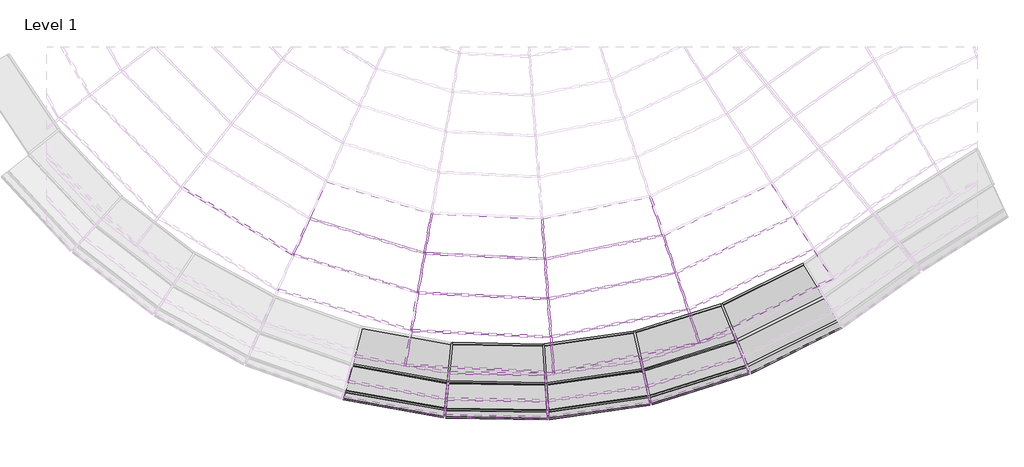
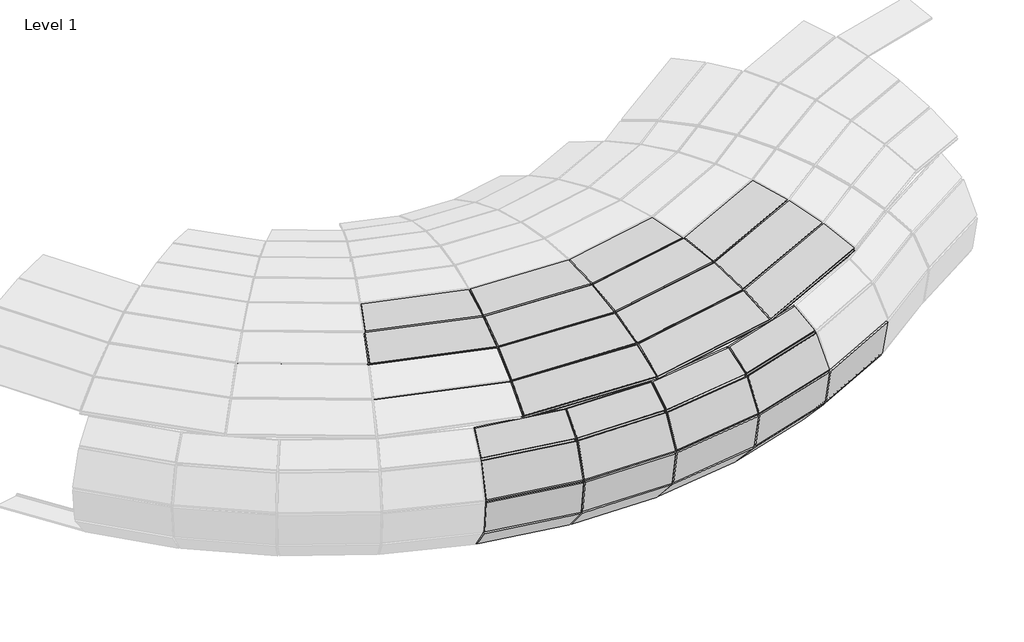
# One storey, part 3 of 23: 70 members, 36 plates.
"""IFC4 building model written with IfcOpenShell, lengths in millimetres."""

from ifc_helpers import new_model, si_unit, origin, place, context, project, spatial, transform, mapped, element, save
from components import member_d6b8231b, member_8c9da58c, member_391bee44, member_01ebdf2a, member_0cd36c09, member_e4cc2466, member_6c4aaba8, member_0ea93e7c, member_12c77cbe, member_af15374c, member_9c203333, member_86c07ba8, member_0e8a41c0, member_f532ae18, member_ff5bcfe9, member_5080b2ef, system_panel_glazed_a6d149b5, system_panel_glazed_185472ef, system_panel_glazed_d90a1b68, system_panel_glazed_7d733e69, system_panel_glazed_020edd5b, system_panel_glazed_973a940c, system_panel_glazed_7e9fb579, system_panel_glazed_aab04364, system_panel_glazed_9094d4f4

model = new_model("IFC4")

# Units and contexts
model_context = context("Model", 3, world=origin())
ifc_project = project(units=[si_unit("LENGTHUNIT", "METRE", prefix="MILLI")], contexts=[model_context])

# Site, building, storey
site = spatial("IfcSite", under=ifc_project)
building = spatial("IfcBuilding", under=site)
storey = spatial("IfcBuildingStorey", under=building, Name="Level 1", Elevation=0.0)

# Members
placement = place(None, origin())
member_shape = member_d6b8231b(model_context)
element("IfcMember", 1, ObjectType="Rectangular Mullion : 1\" Square", at=placement, inside=storey, context=model_context, shape_type="MappedRepresentation", body=[
    mapped(member_shape, transform((-8044.9836654, -9595.6737343, 0.0), x_axis=(0.9753085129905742, 0.2208467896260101, 0.0), y_axis=(0.06190284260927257, -0.2733767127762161, -0.9599131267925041), z_axis=(-0.2119937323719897, 0.9362114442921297, -0.2802976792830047))),
])
element("IfcMember", 2, ObjectType="Rectangular Mullion : 1\" Square", at=placement, inside=storey, context=model_context, shape_type="MappedRepresentation", body=[
    mapped(member_shape, transform((-6752.9729766, -9192.0628654, 0.0), x_axis=(0.927590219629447, 0.3735992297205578, 0.0), y_axis=(0.10471899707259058, -0.2600013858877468, -0.959913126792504), z_axis=(-0.35862280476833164, 0.8904060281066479, -0.2802976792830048))),
])
element("IfcMember", 3, ObjectType="Rectangular Mullion : 1\" Square", at=placement, inside=storey, context=model_context, shape_type="MappedRepresentation", body=[
    mapped(member_shape, transform((-9384.8336131, -9788.0158019, 0.0), x_axis=(0.998048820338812, 0.0624383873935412, 0.0), y_axis=(0.017501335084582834, -0.27975076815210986, -0.9599131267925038), z_axis=(-0.059935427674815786, 0.958040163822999, -0.2802976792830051))),
])
element("IfcMember", 4, ObjectType="Rectangular Mullion : 1\" Square", at=placement, inside=storey, context=model_context, shape_type="MappedRepresentation", body=[
    mapped(member_shape, transform((-10738.2088025, -9764.1631218, 0.0), x_axis=(0.9952287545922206, -0.09756908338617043, 0.0), y_axis=(-0.0273483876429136, -0.27896031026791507, -0.959913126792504), z_axis=(0.09365784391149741, 0.9553331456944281, -0.2802976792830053))),
])
member_2_shape = member_8c9da58c(model_context)
element("IfcMember", 5, ObjectType="Rectangular Mullion : 1\" Square", at=placement, inside=storey, context=model_context, shape_type="MappedRepresentation", body=[
    mapped(member_2_shape, transform((-10795.3026241, -10346.5342074, 170.8694653), x_axis=(0.9952287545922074, -0.09756908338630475, 0.0), y_axis=(-0.07345046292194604, -0.7492128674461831, -0.6582439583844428), z_axis=(0.0642242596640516, 0.6551033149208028, -0.7528046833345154))),
])
element("IfcMember", 6, ObjectType="Rectangular Mullion : 1\" Square", at=placement, inside=storey, context=model_context, shape_type="MappedRepresentation", body=[
    mapped(member_2_shape, transform((-9348.2969764, -10372.0370857, 170.8694653), x_axis=(0.9980488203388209, 0.062438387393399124, 0.0), y_axis=(0.04700391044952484, -0.7513358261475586, -0.6582439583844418), z_axis=(-0.04109969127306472, 0.6569596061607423, -0.7528046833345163))),
])
element("IfcMember", 7, ObjectType="Rectangular Mullion : 1\" Square", at=placement, inside=storey, context=model_context, shape_type="MappedRepresentation", body=[
    mapped(member_2_shape, transform((-9323.2426046, -10772.5196617, 629.7792003), x_axis=(0.9980488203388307, 0.06243838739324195, 0.0), y_axis=(0.061734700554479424, -0.9868007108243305, -0.14971033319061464), z_axis=(-0.009347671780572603, 0.14941822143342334, -0.988729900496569))),
])
element("IfcMember", 8, ObjectType="Rectangular Mullion : 1\" Square", at=placement, inside=storey, context=model_context, shape_type="MappedRepresentation", body=[
    mapped(member_2_shape, transform((-7915.7522861, -10166.3882307, 170.8694653), x_axis=(0.9753085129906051, 0.22084678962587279, 0.0), y_axis=(0.1662544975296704, -0.734216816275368, -0.6582439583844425), z_axis=(-0.14537106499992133, 0.6419909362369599, -0.7528046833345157))),
])
element("IfcMember", 9, ObjectType="Rectangular Mullion : 1\" Square", at=placement, inside=storey, context=model_context, shape_type="MappedRepresentation", body=[
    mapped(member_2_shape, transform((-7827.1340849, -10557.7459054, 629.7792003), x_axis=(0.9753085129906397, 0.22084678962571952, 0.0), y_axis=(0.2183578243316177, -0.9643166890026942, -0.1497103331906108), z_axis=(-0.03306304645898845, 0.14601376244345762, -0.9887299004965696))),
])
element("IfcMember", 10, ObjectType="Rectangular Mullion : 1\" Square", at=placement, inside=storey, context=model_context, shape_type="MappedRepresentation", body=[
    mapped(member_2_shape, transform((-6534.3565148, -9734.8543801, 170.8694653), x_axis=(0.9275902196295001, 0.3735992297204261, 0.0), y_axis=(0.2812472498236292, -0.6982942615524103, -0.6582439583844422), z_axis=(-0.24591943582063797, 0.6105806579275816, -0.752804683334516))),
])
element("IfcMember", 11, ObjectType="Rectangular Mullion : 1\" Square", at=placement, inside=storey, context=model_context, shape_type="MappedRepresentation", body=[
    mapped(member_2_shape, transform((-6384.4440267, -10107.0643492, 629.7792003), x_axis=(0.9275902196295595, 0.3735992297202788, 0.0), y_axis=(0.36938872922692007, -0.9171361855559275, -0.14971033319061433), z_axis=(-0.05593166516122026, 0.1388698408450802, -0.9887299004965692))),
])
member_3_shape = member_391bee44(model_context)
element("IfcMember", 12, ObjectType="Rectangular Mullion : 1\" Square", at=placement, inside=storey, context=model_context, shape_type="MappedRepresentation", body=[
    mapped(member_3_shape, transform((-9317.5442639, -10863.6050094, 1232.5089476), x_axis=(0.9980488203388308, 0.062438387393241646, 0.0), y_axis=(0.05706430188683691, -0.9121465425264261, 0.4058723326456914), z_axis=(0.025342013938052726, -0.40508040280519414, -0.9139297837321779))),
])
element("IfcMember", 13, ObjectType="Rectangular Mullion : 1\" Square", at=placement, inside=storey, context=model_context, shape_type="MappedRepresentation", body=[
    mapped(member_3_shape, transform((-7806.9788518, -10646.755895, 1232.5089476), x_axis=(0.9753085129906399, 0.22084678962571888, 0.0), y_axis=(0.20183845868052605, -0.8913634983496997, 0.4058723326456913), z_axis=(0.08963560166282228, -0.39585074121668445, -0.9139297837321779))),
])
element("IfcMember", 14, ObjectType="Rectangular Mullion : 1\" Square", at=placement, inside=storey, context=model_context, shape_type="MappedRepresentation", body=[
    mapped(member_3_shape, transform((-6350.3480836, -10191.7194041, 1232.5089476), x_axis=(0.9275902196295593, 0.37359922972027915, 0.0), y_axis=(0.34144346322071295, -0.8477523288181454, 0.40587233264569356), z_axis=(0.15163359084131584, -0.37648320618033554, -0.9139297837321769))),
])
member_4_shape = member_01ebdf2a(model_context)
element("IfcMember", 15, ObjectType="Rectangular Mullion : 1\" Square", at=placement, inside=storey, context=model_context, shape_type="MappedRepresentation", body=[
    mapped(member_4_shape, transform((-9332.9927556, -10616.6679959, 1789.6405438), x_axis=(0.9980488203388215, 0.062438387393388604, 0.0), y_axis=(0.037204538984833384, -0.5946973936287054, 0.8030883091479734), z_axis=(0.050143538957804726, -0.8015213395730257, -0.5958600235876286))),
])
element("IfcMember", 16, ObjectType="Rectangular Mullion : 1\" Square", at=placement, inside=storey, context=model_context, shape_type="MappedRepresentation", body=[
    mapped(member_4_shape, transform((-7861.6207145, -10405.4452832, 1789.6405438), x_axis=(0.9753085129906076, 0.22084678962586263, 0.0), y_axis=(0.13159377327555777, -0.5811473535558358, 0.8030883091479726), z_axis=(0.17735947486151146, -0.7832588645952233, -0.5958600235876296))),
])
element("IfcMember", 17, ObjectType="Rectangular Mullion : 1\" Square", at=placement, inside=storey, context=model_context, shape_type="MappedRepresentation", body=[
    mapped(member_4_shape, transform((-6442.7839206, -9962.2152417, 1789.6405438), x_axis=(0.9275902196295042, 0.3735992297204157, 0.0), y_axis=(0.22261284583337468, -0.5527139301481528, 0.8030883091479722), z_axis=(0.3000331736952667, -0.744936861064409, -0.59586002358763))),
])
element("IfcMember", 18, ObjectType="Rectangular Mullion : 1\" Square", at=placement, inside=storey, context=model_context, shape_type="MappedRepresentation", body=[
    mapped(member_2_shape, transform((-10834.4537328, -10745.8851882, 629.7792003), x_axis=(0.9952287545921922, -0.09756908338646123, 0.0), y_axis=(-0.09646947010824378, -0.9840124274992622, -0.1497103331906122), z_axis=(0.014607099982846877, 0.1489960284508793, -0.9887299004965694))),
])
element("IfcMember", 19, ObjectType="Rectangular Mullion : 1\" Square", at=placement, inside=storey, context=model_context, shape_type="MappedRepresentation", body=[
    mapped(member_3_shape, transform((-10843.358221, -10836.7131671, 1232.5089476), x_axis=(0.9952287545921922, -0.09756908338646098, 0.0), y_axis=(-0.08917129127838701, -0.9095692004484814, 0.40587233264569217), z_axis=(-0.039600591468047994, -0.4039358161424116, -0.9139297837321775))),
])
element("IfcMember", 20, ObjectType="Rectangular Mullion : 1\" Square", at=placement, inside=storey, context=model_context, shape_type="MappedRepresentation", body=[
    mapped(member_4_shape, transform((-10819.2177004, -10590.4738936, 1789.6405438), x_axis=(0.9952287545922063, -0.09756908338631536, 0.0), y_axis=(-0.05813751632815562, -0.593017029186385, 0.8030883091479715), z_axis=(-0.0783565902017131, -0.7992565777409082, -0.5958600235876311))),
])
member_5_shape = member_0cd36c09(model_context)
element("IfcMember", 21, ObjectType="Rectangular Mullion : 1\" Square", at=placement, inside=storey, context=model_context, shape_type="MappedRepresentation", body=[
    mapped(member_5_shape, transform((-9274.4739492, -9676.7513146, 2378.3537392), x_axis=(0.9970757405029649, 0.07641968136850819, 0.0), y_axis=(0.02845669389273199, -0.37128497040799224, 0.9280828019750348), z_axis=(0.0709237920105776, -0.9253688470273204, -0.37237388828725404))),
])
element("IfcMember", 22, ObjectType="Rectangular Mullion : 1\" Square", at=placement, inside=storey, context=model_context, shape_type="MappedRepresentation", body=[
    mapped(member_5_shape, transform((-9317.7090929, -9112.6464655, 2605.3528615), x_axis=(0.9970757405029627, 0.07641968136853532, 0.0), y_axis=(0.01980996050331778, -0.25846785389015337, 0.965816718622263), z_axis=(0.07380740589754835, -0.962992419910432, -0.25922589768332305))),
])
element("IfcMember", 23, ObjectType="Rectangular Mullion : 1\" Square", at=placement, inside=storey, context=model_context, shape_type="MappedRepresentation", body=[
    mapped(member_5_shape, transform((-9362.7020875, -8525.6062863, 2763.3769688), x_axis=(0.9970757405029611, 0.07641968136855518, 0.0), y_axis=(0.010881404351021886, -0.14197369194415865, 0.9898106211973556), z_axis=(0.07564101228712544, -0.9869161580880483, -0.14239007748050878))),
])
element("IfcMember", 24, ObjectType="Rectangular Mullion : 1\" Square", at=placement, inside=storey, context=model_context, shape_type="MappedRepresentation", body=[
    mapped(member_5_shape, transform((-7252.7752796, -9266.3710533, 2378.3537392), x_axis=(0.947957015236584, 0.3183983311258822, 0.0), y_axis=(0.11856322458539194, -0.35299443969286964, 0.9280828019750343), z_axis=(0.295500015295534, -0.8797826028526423, -0.37237388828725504))),
])
element("IfcMember", 25, ObjectType="Rectangular Mullion : 1\" Square", at=placement, inside=storey, context=model_context, shape_type="MappedRepresentation", body=[
    mapped(member_5_shape, transform((-7432.9120889, -8730.0555786, 2605.3528615), x_axis=(0.9479570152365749, 0.31839833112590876, 0.0), y_axis=(0.08253709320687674, -0.24573500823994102, 0.9658167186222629), z_axis=(0.30751443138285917, -0.9155527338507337, -0.2592258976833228))),
])
element("IfcMember", 26, ObjectType="Rectangular Mullion : 1\" Square", at=placement, inside=storey, context=model_context, shape_type="MappedRepresentation", body=[
    mapped(member_5_shape, transform((-7620.3728863, -8171.934632, 2763.3769688), x_axis=(0.9479570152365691, 0.3183983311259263, 0.0), y_axis=(0.045336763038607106, -0.13497967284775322, 0.9898106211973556), z_axis=(0.31515404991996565, -0.9382979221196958, -0.14239007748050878))),
])
element("IfcMember", 27, ObjectType="Rectangular Mullion : 1\" Square", at=placement, inside=storey, context=model_context, shape_type="MappedRepresentation", body=[
    mapped(member_5_shape, transform((-13079.0504574, -8462.9166029, 2605.3528615), x_axis=(0.9136605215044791, -0.4064781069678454, 0.0), y_axis=(-0.10536965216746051, -0.2368444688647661, 0.9658167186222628), z_axis=(-0.39258335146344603, -0.8824286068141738, -0.25922589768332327))),
])
element("IfcMember", 28, ObjectType="Rectangular Mullion : 1\" Square", at=placement, inside=storey, context=model_context, shape_type="MappedRepresentation", body=[
    mapped(member_5_shape, transform((-11335.0981505, -9579.2558226, 2378.3537392), x_axis=(0.9854064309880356, -0.17021799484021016, 0.0), y_axis=(-0.06338473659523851, -0.36693962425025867, 0.9280828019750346), z_axis=(-0.15797639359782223, -0.9145387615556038, -0.37237388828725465))),
])
element("IfcMember", 29, ObjectType="Rectangular Mullion : 1\" Square", at=placement, inside=storey, context=model_context, shape_type="MappedRepresentation", body=[
    mapped(member_5_shape, transform((-11238.795741, -9021.7529935, 2605.3528615), x_axis=(0.9854064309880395, -0.1702179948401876, 0.0), y_axis=(-0.044124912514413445, -0.25544286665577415, 0.9658167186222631), z_axis=(-0.16439938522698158, -0.9517220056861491, -0.2592258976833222))),
])
element("IfcMember", 30, ObjectType="Rectangular Mullion : 1\" Square", at=placement, inside=storey, context=model_context, shape_type="MappedRepresentation", body=[
    mapped(member_5_shape, transform((-11138.5778757, -8441.5832589, 2763.3769688), x_axis=(0.9854064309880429, -0.17021799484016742, 0.0), y_axis=(-0.024237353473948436, -0.14031209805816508, 0.9898106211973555), z_axis=(-0.16848357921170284, -0.9753657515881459, -0.14239007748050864))),
])
member_6_shape = member_e4cc2466(model_context)
element("IfcMember", 31, ObjectType="Rectangular Mullion : 1\" Square", at=placement, inside=storey, context=model_context, shape_type="MappedRepresentation", body=[
    mapped(member_6_shape, transform((-9233.6117335, -10209.8956998, 2085.6089632), x_axis=(0.997075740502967, 0.07641968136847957, 0.0), y_axis=(0.036698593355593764, -0.47882006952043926, 0.8771456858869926), z_axis=(0.06703119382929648, -0.8745806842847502, -0.48022437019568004))),
])
element("IfcMember", 32, ObjectType="Rectangular Mullion : 1\" Square", at=placement, inside=storey, context=model_context, shape_type="MappedRepresentation", body=[
    mapped(member_6_shape, transform((-7082.5251415, -9773.2512626, 2085.6089632), x_axis=(0.9479570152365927, 0.3183983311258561, 0.0), y_axis=(0.15290263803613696, -0.4552320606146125, 0.8771456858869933), z_axis=(0.2792817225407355, -0.8314964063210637, -0.48022437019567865))),
])
element("IfcMember", 33, ObjectType="Rectangular Mullion : 1\" Square", at=placement, inside=storey, context=model_context, shape_type="MappedRepresentation", body=[
    mapped(member_6_shape, transform((-11426.1150758, -10106.1605344, 2085.6089632), x_axis=(0.98540643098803, -0.17021799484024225, 0.0), y_axis=(-0.08174282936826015, -0.4732161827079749, 0.8771456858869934), z_axis=(-0.14930597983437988, -0.8643449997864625, -0.48022437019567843))),
])
member_7_shape = member_6c4aaba8(model_context)
element("IfcMember", 34, ObjectType="Rectangular Mullion : 1\" Square", at=placement, inside=storey, context=model_context, shape_type="MappedRepresentation", body=[
    mapped(member_7_shape, transform((-11347.2501894, -9575.5655717, 2378.3537392), x_axis=(0.2631320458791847, 0.8664968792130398, 0.4241988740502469), y_axis=(-0.12325986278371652, -0.40589615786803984, 0.9055690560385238), z_axis=(0.9568534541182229, -0.2905709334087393, 0.0))),
])
element("IfcMember", 35, ObjectType="Rectangular Mullion : 1\" Square", at=placement, inside=storey, context=model_context, shape_type="MappedRepresentation", body=[
    mapped(member_7_shape, transform((-9287.1597581, -9676.1511037, 2378.3537392), x_axis=(0.04279783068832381, 0.9045571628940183, 0.4241988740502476), y_axis=(-0.020047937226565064, -0.4237248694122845, 0.9055690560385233), z_axis=(0.9988825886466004, -0.047260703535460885, 0.0))),
])
element("IfcMember", 36, ObjectType="Rectangular Mullion : 1\" Square", at=placement, inside=storey, context=model_context, shape_type="MappedRepresentation", body=[
    mapped(member_7_shape, transform((-7265.2214514, -9268.8974749, 2378.3537392), x_axis=(-0.18014561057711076, 0.8874699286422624, 0.4241988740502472), y_axis=(0.08438623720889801, -0.41572063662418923, 0.9055690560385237), z_axis=(0.9800135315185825, 0.19893083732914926, 0.0))),
])
member_8_shape = member_0ea93e7c(model_context)
element("IfcMember", 37, ObjectType="Rectangular Mullion : 1\" Square", at=placement, inside=storey, context=model_context, shape_type="MappedRepresentation", body=[
    mapped(member_8_shape, transform((-9375.3878964, -8525.0060754, 2763.3769688), x_axis=(0.04631124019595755, 0.9788151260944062, 0.19943976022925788), y_axis=(-0.009425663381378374, -0.19921690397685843, 0.9799100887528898), z_axis=(0.9988825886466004, -0.04726070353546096, 0.0))),
])
element("IfcMember", 38, ObjectType="Rectangular Mullion : 1\" Square", at=placement, inside=storey, context=model_context, shape_type="MappedRepresentation", body=[
    mapped(member_8_shape, transform((-7632.8190581, -8174.4610537, 2763.3769688), x_axis=(-0.1949343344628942, 0.9603251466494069, 0.19943976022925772), y_axis=(0.03967471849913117, -0.19545366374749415, 0.9799100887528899), z_axis=(0.9800135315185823, 0.19893083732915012, 0.0))),
])
element("IfcMember", 39, ObjectType="Rectangular Mullion : 1\" Square", at=placement, inside=storey, context=model_context, shape_type="MappedRepresentation", body=[
    mapped(member_8_shape, transform((-11150.7299146, -8437.893008, 2763.3769688), x_axis=(0.28473338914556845, 0.9376303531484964, 0.19943976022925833), y_axis=(-0.05795139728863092, -0.190834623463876, 0.9799100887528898), z_axis=(0.9568534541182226, -0.2905709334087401, 0.0))),
])
member_9_shape = member_12c77cbe(model_context)
element("IfcMember", 40, ObjectType="Rectangular Mullion : 1\" Square", at=placement, inside=storey, context=model_context, shape_type="MappedRepresentation", body=[
    mapped(member_9_shape, transform((-13089.9278612, -8456.3612931, 2605.3528615), x_axis=(0.49006573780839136, 0.8131794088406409, 0.31396627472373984), y_axis=(-0.16205875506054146, -0.2689085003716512, 0.9494341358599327), z_axis=(0.8564884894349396, -0.5161661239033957, 0.0))),
])
element("IfcMember", 41, ObjectType="Rectangular Mullion : 1\" Square", at=placement, inside=storey, context=model_context, shape_type="MappedRepresentation", body=[
    mapped(member_9_shape, transform((-11250.9477798, -9018.0627427, 2605.3528615), x_axis=(0.275877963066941, 0.9084693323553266, 0.31396627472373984), y_axis=(-0.09122947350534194, -0.30041971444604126, 0.9494341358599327), z_axis=(0.9568534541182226, -0.2905709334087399, 0.0))),
])
element("IfcMember", 42, ObjectType="Rectangular Mullion : 1\" Square", at=placement, inside=storey, context=model_context, shape_type="MappedRepresentation", body=[
    mapped(member_9_shape, transform((-9330.3949017, -9112.0462545, 2605.3528615), x_axis=(0.04487092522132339, 0.9483732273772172, 0.3139662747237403), y_axis=(-0.014838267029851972, -0.31361544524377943, 0.9494341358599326), z_axis=(0.9988825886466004, -0.047260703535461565, 0.0))),
])
element("IfcMember", 43, ObjectType="Rectangular Mullion : 1\" Square", at=placement, inside=storey, context=model_context, shape_type="MappedRepresentation", body=[
    mapped(member_9_shape, transform((-7445.3582608, -8732.5820002, 2605.3528615), x_axis=(-0.1888717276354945, 0.930458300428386, 0.31396627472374), y_axis=(0.0624575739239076, -0.30769119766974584, 0.9494341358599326), z_axis=(0.9800135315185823, 0.19893083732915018, 0.0))),
])
member_10_shape = member_af15374c(model_context)
element("IfcMember", 44, ObjectType="Rectangular Mullion : 1\" Square", at=placement, inside=storey, context=model_context, shape_type="MappedRepresentation", body=[
    mapped(member_10_shape, transform((-11413.4292669, -10106.7607454, 2085.6089632), x_axis=(-0.041380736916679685, -0.8746060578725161, -0.4830650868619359), y_axis=(-0.022829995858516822, -0.48252530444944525, 0.8755844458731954), z_axis=(-0.9988825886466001, 0.047260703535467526, 0.0))),
])
element("IfcMember", 45, ObjectType="Rectangular Mullion : 1\" Square", at=placement, inside=storey, context=model_context, shape_type="MappedRepresentation", body=[
    mapped(member_10_shape, transform((-9221.1655616, -10207.3692781, 2085.6089632), x_axis=(0.1741807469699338, -0.858084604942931, -0.4830650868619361), y_axis=(0.09609654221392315, -0.47341032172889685, 0.8755844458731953), z_axis=(-0.9800135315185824, -0.19893083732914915, 0.0))),
])
element("IfcMember", 46, ObjectType="Rectangular Mullion : 1\" Square", at=placement, inside=storey, context=model_context, shape_type="MappedRepresentation", body=[
    mapped(member_10_shape, transform((-7071.0774039, -9767.752235, 2085.6089632), x_axis=(0.37912307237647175, -0.7892488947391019, -0.48306508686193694), y_axis=(0.20916442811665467, -0.43543325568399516, 0.8755844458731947), z_axis=(-0.901396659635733, -0.4329942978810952, 0.0))),
])
member_11_shape = member_9c203333(model_context)
element("IfcMember", 47, ObjectType="Rectangular Mullion : 1\" Square", at=placement, inside=storey, context=model_context, shape_type="MappedRepresentation", body=[
    mapped(member_11_shape, transform((-10725.5107745, -9764.3869193, 0.0), x_axis=(0.01691116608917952, 0.9595212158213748, -0.28112817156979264), y_axis=(-0.004953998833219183, -0.2810845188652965, -0.959670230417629), z_axis=(-0.999844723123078, 0.017621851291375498, 0.0))),
])
element("IfcMember", 48, ObjectType="Rectangular Mullion : 1\" Square", at=placement, inside=storey, context=model_context, shape_type="MappedRepresentation", body=[
    mapped(member_11_shape, transform((-9372.2624856, -9786.2111545, 0.0), x_axis=(-0.1363674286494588, 0.949932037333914, -0.28112817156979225), y_axis=(0.03994781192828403, -0.278275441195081, -0.9596702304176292), z_axis=(-0.9898525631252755, -0.14209821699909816, 0.0))),
])
element("IfcMember", 49, ObjectType="Rectangular Mullion : 1\" Square", at=placement, inside=storey, context=model_context, shape_type="MappedRepresentation", body=[
    mapped(member_11_shape, transform((-8032.8613891, -9591.8868597, 0.0), x_axis=(-0.2861536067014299, 0.9160147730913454, -0.2811281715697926), y_axis=(0.08382654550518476, -0.26833963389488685, -0.9596702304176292), z_axis=(-0.9545099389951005, -0.2981791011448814, 0.0))),
])
element("IfcMember", 50, ObjectType="Rectangular Mullion : 1\" Square", at=placement, inside=storey, context=model_context, shape_type="MappedRepresentation", body=[
    mapped(member_11_shape, transform((-6741.6100073, -9186.3907467, 0.0), x_axis=(-0.4286112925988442, 0.8586380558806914, -0.2811281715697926), y_axis=(0.12555845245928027, -0.2515315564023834, -0.9596702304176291), z_axis=(-0.8947219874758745, -0.4466235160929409, 0.0))),
])
member_12_shape = member_86c07ba8(model_context)
element("IfcMember", 51, ObjectType="Rectangular Mullion : 1\" Square", at=placement, inside=storey, context=model_context, shape_type="MappedRepresentation", body=[
    mapped(member_12_shape, transform((-9360.9950044, -10371.8132882, 170.8694653), x_axis=(-0.014873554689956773, -0.8439093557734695, 0.5362795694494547), y_axis=(-0.009450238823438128, -0.5361962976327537, -0.8440404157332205), z_axis=(0.9998447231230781, -0.017621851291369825, 0.0))),
])
element("IfcMember", 52, ObjectType="Rectangular Mullion : 1\" Square", at=placement, inside=storey, context=model_context, shape_type="MappedRepresentation", body=[
    mapped(member_12_shape, transform((-7928.3234137, -10168.1928781, 170.8694653), x_axis=(0.1199366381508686, -0.8354755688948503, 0.5362795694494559), y_axis=(0.07620437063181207, -0.530837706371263, -0.8440404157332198), z_axis=(0.9898525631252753, 0.1420982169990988, 0.0))),
])
element("IfcMember", 53, ObjectType="Rectangular Mullion : 1\" Square", at=placement, inside=storey, context=model_context, shape_type="MappedRepresentation", body=[
    mapped(member_12_shape, transform((-6546.478791, -9738.6412547, 170.8694653), x_axis=(0.25167521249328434, -0.8056449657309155, 0.5362795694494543), y_axis=(0.1599073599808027, -0.5118841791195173, -0.8440404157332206), z_axis=(0.9545099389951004, 0.29817910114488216, 0.0))),
])
element("IfcMember", 54, ObjectType="Rectangular Mullion : 1\" Square", at=placement, inside=storey, context=model_context, shape_type="MappedRepresentation", body=[
    mapped(member_12_shape, transform((-10807.8023517, -10344.2876965, 170.8694653), x_axis=(-0.14930283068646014, -0.8307303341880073, 0.5362795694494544), y_axis=(-0.09486282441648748, -0.5278227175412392, -0.8440404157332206), z_axis=(0.9842305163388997, -0.17689061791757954, 0.0))),
])
member_13_shape = member_0e8a41c0(model_context)
element("IfcMember", 55, ObjectType="Rectangular Mullion : 1\" Square", at=placement, inside=storey, context=model_context, shape_type="MappedRepresentation", body=[
    mapped(member_13_shape, transform((-10846.9534604, -10743.6386773, 629.7792003), x_axis=(-0.07469705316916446, -0.4156190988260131, 0.9064662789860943), y_axis=(-0.16034538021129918, -0.8921717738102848, -0.42227820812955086), z_axis=(0.9842305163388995, -0.1768906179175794, 0.0))),
])
element("IfcMember", 56, ObjectType="Rectangular Mullion : 1\" Square", at=placement, inside=storey, context=model_context, shape_type="MappedRepresentation", body=[
    mapped(member_13_shape, transform((-9335.9406326, -10772.2958641, 629.7792003), x_axis=(-0.007441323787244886, -0.4222126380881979, 0.9064662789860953), y_axis=(-0.015973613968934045, -0.9063255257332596, -0.4222782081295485), z_axis=(0.9998447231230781, -0.017621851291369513, 0.0))),
])
element("IfcMember", 57, ObjectType="Rectangular Mullion : 1\" Square", at=placement, inside=storey, context=model_context, shape_type="MappedRepresentation", body=[
    mapped(member_13_shape, transform((-7839.7052124, -10559.5505528, 629.7792003), x_axis=(0.060004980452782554, -0.41799316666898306, 0.9064662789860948), y_axis=(0.12880724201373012, -0.8972679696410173, -0.4222782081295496), z_axis=(0.9898525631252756, 0.142098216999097, 0.0))),
])
element("IfcMember", 58, ObjectType="Rectangular Mullion : 1\" Square", at=placement, inside=storey, context=model_context, shape_type="MappedRepresentation", body=[
    mapped(member_13_shape, transform((-6396.5663029, -10110.8512237, 629.7792003), x_axis=(0.12591453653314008, -0.40306874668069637, 0.9064662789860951), y_axis=(0.270289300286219, -0.8652310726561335, -0.4222782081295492), z_axis=(0.9545099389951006, 0.2981791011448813, 0.0))),
])
member_14_shape = member_f532ae18(model_context)
element("IfcMember", 59, ObjectType="Rectangular Mullion : 1\" Square", at=placement, inside=storey, context=model_context, shape_type="MappedRepresentation", body=[
    mapped(member_14_shape, transform((-10855.8579485, -10834.4666563, 1232.5089476), x_axis=(0.02369634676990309, 0.13184796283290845, 0.9909866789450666), y_axis=(-0.17529624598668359, -0.9753593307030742, 0.13396044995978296), z_axis=(0.9842305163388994, -0.17689061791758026, 0.0))),
])
element("IfcMember", 60, ObjectType="Rectangular Mullion : 1\" Square", at=placement, inside=storey, context=model_context, shape_type="MappedRepresentation", body=[
    mapped(member_14_shape, transform((-9330.2422919, -10863.3812119, 1232.5089476), x_axis=(0.002360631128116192, 0.13393964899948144, 0.9909866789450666), y_axis=(-0.017463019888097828, -0.9908328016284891, 0.13396044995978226), z_axis=(0.9998447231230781, -0.017621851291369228, 0.0))),
])
element("IfcMember", 61, ObjectType="Rectangular Mullion : 1\" Square", at=placement, inside=storey, context=model_context, shape_type="MappedRepresentation", body=[
    mapped(member_14_shape, transform((-7819.5499793, -10648.5605424, 1232.5089476), x_axis=(-0.019035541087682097, 0.1326010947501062, 0.9909866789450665), y_axis=(0.1408174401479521, -0.9809307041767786, 0.13396044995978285), z_axis=(0.9898525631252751, 0.14209821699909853, 0.0))),
])
element("IfcMember", 62, ObjectType="Rectangular Mullion : 1\" Square", at=placement, inside=storey, context=model_context, shape_type="MappedRepresentation", body=[
    mapped(member_14_shape, transform((-6362.4703598, -10195.5062787, 1232.5089476), x_axis=(-0.0399442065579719, 0.12786658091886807, 0.9909866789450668), y_axis=(0.29549151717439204, -0.9459066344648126, 0.13396044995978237), z_axis=(0.9545099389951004, 0.29817910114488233, 0.0))),
])
member_15_shape = member_ff5bcfe9(model_context)
element("IfcMember", 63, ObjectType="Rectangular Mullion : 1\" Square", at=placement, inside=storey, context=model_context, shape_type="MappedRepresentation", body=[
    mapped(member_15_shape, transform((-10831.717428, -10588.2273827, 1789.6405438), x_axis=(0.1145188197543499, 0.6371899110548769, 0.7621512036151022), y_axis=(-0.13481739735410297, -0.7501324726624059, 0.6473990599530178), z_axis=(0.9842305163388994, -0.17689061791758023, 0.0))),
])
element("IfcMember", 64, ObjectType="Rectangular Mullion : 1\" Square", at=placement, inside=storey, context=model_context, shape_type="MappedRepresentation", body=[
    mapped(member_15_shape, transform((-9345.6907836, -10616.4441984, 1789.6405438), x_axis=(0.011408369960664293, 0.6472985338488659, 0.7621512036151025), y_axis=(-0.01343051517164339, -0.7620328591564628, 0.6473990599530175), z_axis=(0.999844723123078, -0.017621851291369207, 0.0))),
])
element("IfcMember", 65, ObjectType="Rectangular Mullion : 1\" Square", at=placement, inside=storey, context=model_context, shape_type="MappedRepresentation", body=[
    mapped(member_15_shape, transform((-7874.1918421, -10407.2499305, 1789.6405438), x_axis=(-0.09199425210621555, 0.6408296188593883, 0.7621512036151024), y_axis=(0.10830032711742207, -0.7544173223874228, 0.6473990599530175), z_axis=(0.9898525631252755, 0.1420982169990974, 0.0))),
])
element("IfcMember", 66, ObjectType="Rectangular Mullion : 1\" Square", at=placement, inside=storey, context=model_context, shape_type="MappedRepresentation", body=[
    mapped(member_15_shape, transform((-6454.9061968, -9966.0021162, 1789.6405438), x_axis=(-0.19304086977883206, 0.6179488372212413, 0.7621512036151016), y_axis=(0.22725756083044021, -0.7274808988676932, 0.6473990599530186), z_axis=(0.9545099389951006, 0.298179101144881, 0.0))),
])
member_16_shape = member_5080b2ef(model_context)
element("IfcMember", 67, ObjectType="Rectangular Mullion : 1\" Square", at=placement, inside=storey, context=model_context, shape_type="MappedRepresentation", body=[
    mapped(member_16_shape, transform((-10792.7970856, -10191.230275, 2085.6089632), x_axis=(0.1418965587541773, 0.7895213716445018, 0.5970941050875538), y_axis=(-0.10562034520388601, -0.5876782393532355, 0.8021711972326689), z_axis=(0.9842305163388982, -0.17689061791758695, 0.0))),
])
element("IfcMember", 68, ObjectType="Rectangular Mullion : 1\" Square", at=placement, inside=storey, context=model_context, shape_type="MappedRepresentation", body=[
    mapped(member_16_shape, transform((-9370.5974787, -10218.3221654, 2085.6089632), x_axis=(0.01413574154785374, 0.802046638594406, 0.5970941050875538), y_axis=(-0.010521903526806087, -0.5970013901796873, 0.8021711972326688), z_axis=(0.9998447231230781, -0.01762185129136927, 0.0))),
])
element("IfcMember", 69, ObjectType="Rectangular Mullion : 1\" Square", at=placement, inside=storey, context=model_context, shape_type="MappedRepresentation", body=[
    mapped(member_16_shape, transform((-7962.2877058, -10018.1990143, 2085.6089632), x_axis=(-0.11398709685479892, 0.7940312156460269, 0.5970941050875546), y_axis=(0.08484600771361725, -0.5910351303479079, 0.8021711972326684), z_axis=(0.9898525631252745, 0.1420982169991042, 0.0))),
])
element("IfcMember", 70, ObjectType="Rectangular Mullion : 1\" Square", at=placement, inside=storey, context=model_context, shape_type="MappedRepresentation", body=[
    mapped(member_16_shape, transform((-6603.9350638, -9595.9860444, 2085.6089632), x_axis=(-0.23919068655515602, 0.7656803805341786, 0.5970941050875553), y_axis=(0.1780409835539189, -0.5699322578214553, 0.8021711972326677), z_axis=(0.9545099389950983, 0.2981791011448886, 0.0))),
])

# Plates
system_panel_glazed_shape = system_panel_glazed_a6d149b5(model_context)
element("IfcPlate", 71, ObjectType="System Panel : Glazed", at=placement, inside=storey, context=model_context, shape_type="MappedRepresentation", body=[
    mapped(system_panel_glazed_shape, transform((-10328.8123339, -10135.8131232, 2097.8788164), x_axis=(0.9988825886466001, -0.047260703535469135, 0.0), y_axis=(0.02282999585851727, 0.48252530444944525, -0.8755844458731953), z_axis=(0.04138073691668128, 0.874606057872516, 0.48306508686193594))),
])
element("IfcPlate", 72, ObjectType="System Panel : Glazed", at=placement, inside=storey, context=model_context, shape_type="MappedRepresentation", body=[
    mapped(system_panel_glazed_shape, transform((-8162.4926285, -9969.7781322, 2097.8788164), x_axis=(0.9800135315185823, 0.19893083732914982, 0.0), y_axis=(-0.0960965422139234, 0.47341032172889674, -0.8755844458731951), z_axis=(-0.17418074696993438, 0.858084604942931, 0.4830650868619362))),
])
element("IfcPlate", 73, ObjectType="System Panel : Glazed", at=placement, inside=storey, context=model_context, shape_type="MappedRepresentation", body=[
    mapped(system_panel_glazed_shape, transform((-6102.8918593, -9278.0026222, 2097.8788164), x_axis=(0.9013966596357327, 0.4329942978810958, 0.0), y_axis=(-0.20916442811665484, 0.43543325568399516, -0.8755844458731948), z_axis=(-0.37912307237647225, 0.7892488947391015, 0.48306508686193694))),
])
system_panel_glazed_2_shape = system_panel_glazed_185472ef(model_context)
element("IfcPlate", 74, ObjectType="System Panel : Glazed", at=placement, inside=storey, context=model_context, shape_type="MappedRepresentation", body=[
    mapped(system_panel_glazed_2_shape, transform((-10304.2296012, -9616.242701, 2383.1142391), x_axis=(0.9988825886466, -0.04726070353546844, 0.0), y_axis=(0.017715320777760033, 0.374423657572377, -0.9270885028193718), z_axis=(0.04381485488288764, 0.9260525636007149, 0.3748425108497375))),
])
element("IfcPlate", 75, ObjectType="System Panel : Glazed", at=placement, inside=storey, context=model_context, shape_type="MappedRepresentation", body=[
    mapped(system_panel_glazed_2_shape, transform((-8265.9668309, -9460.0224811, 2383.1142391), x_axis=(0.9800135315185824, 0.1989308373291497, 0.0), y_axis=(-0.07456773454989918, 0.36735073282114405, -0.9270885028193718), z_axis=(-0.18442649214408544, 0.9085592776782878, 0.3748425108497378))),
])
element("IfcPlate", 76, ObjectType="System Panel : Glazed", at=placement, inside=storey, context=model_context, shape_type="MappedRepresentation", body=[
    mapped(system_panel_glazed_2_shape, transform((-6328.1145559, -8809.1396664, 2383.1142391), x_axis=(0.9013966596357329, 0.4329942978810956, 0.0), y_axis=(-0.1623046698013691, 0.33788178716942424, -0.9270885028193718), z_axis=(-0.40142403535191, 0.8356744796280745, 0.3748425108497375))),
])
system_panel_glazed_3_shape = system_panel_glazed_d90a1b68(model_context)
element("IfcPlate", 77, ObjectType="System Panel : Glazed", at=placement, inside=storey, context=model_context, shape_type="MappedRepresentation", body=[
    mapped(system_panel_glazed_3_shape, transform((-12155.3608452, -8730.6042545, 2608.668686), x_axis=(0.9568534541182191, -0.29057093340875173, 0.0), y_axis=(0.07586474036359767, 0.24982346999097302, -0.965314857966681), z_axis=(0.28049243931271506, 0.9236648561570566, 0.2610885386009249))),
])
element("IfcPlate", 78, ObjectType="System Panel : Glazed", at=placement, inside=storey, context=model_context, shape_type="MappedRepresentation", body=[
    mapped(system_panel_glazed_3_shape, transform((-10277.6730244, -9054.9539297, 2608.668686), x_axis=(0.9988825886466, -0.04726070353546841, 0.0), y_axis=(0.012339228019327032, 0.2607967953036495, -0.9653148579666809), z_axis=(0.04562145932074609, 0.9642362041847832, 0.26108853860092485))),
])
element("IfcPlate", 79, ObjectType="System Panel : Glazed", at=placement, inside=storey, context=model_context, shape_type="MappedRepresentation", body=[
    mapped(system_panel_glazed_3_shape, transform((-8377.7493832, -8909.3365474, 2608.668686), x_axis=(0.9800135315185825, 0.19893083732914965, 0.0), y_axis=(-0.05193856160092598, 0.25587030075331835, -0.9653148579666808), z_axis=(-0.19203089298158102, 0.9460216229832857, 0.2610885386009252))),
])
element("IfcPlate", 80, ObjectType="System Panel : Glazed", at=placement, inside=storey, context=model_context, shape_type="MappedRepresentation", body=[
    mapped(system_panel_glazed_3_shape, transform((-6571.421267, -8302.629863, 2608.668686), x_axis=(0.9013966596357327, 0.4329942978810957, 0.0), y_axis=(-0.11304984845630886, 0.2353443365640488, -0.9653148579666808), z_axis=(-0.41797582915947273, 0.8701315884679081, 0.261088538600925))),
])
system_panel_glazed_4_shape = system_panel_glazed_7d733e69(model_context)
element("IfcPlate", 81, ObjectType="System Panel : Glazed", at=placement, inside=storey, context=model_context, shape_type="MappedRepresentation", body=[
    mapped(system_panel_glazed_4_shape, transform((-11985.5026845, -8171.2593612, 2765.1989775), x_axis=(0.9568534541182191, -0.29057093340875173, 0.0), y_axis=(0.04168683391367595, 0.13727522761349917, -0.9896553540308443), z_axis=(0.28756507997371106, 0.9469551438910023, 0.14346525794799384))),
])
element("IfcPlate", 82, ObjectType="System Panel : Glazed", at=placement, inside=storey, context=model_context, shape_type="MappedRepresentation", body=[
    mapped(system_panel_glazed_4_shape, transform((-10250.0459797, -8471.0401939, 2765.1989775), x_axis=(0.9988825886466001, -0.047260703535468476, 0.0), y_axis=(0.006780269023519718, 0.14330494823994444, -0.9896553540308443), z_axis=(0.046771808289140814, 0.988549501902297, 0.143465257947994))),
])
element("IfcPlate", 83, ObjectType="System Panel : Glazed", at=placement, inside=storey, context=model_context, shape_type="MappedRepresentation", body=[
    mapped(system_panel_glazed_4_shape, transform((-8494.0377736, -8336.4530385, 2765.1989775), x_axis=(0.9800135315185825, 0.1989308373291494, 0.0), y_axis=(-0.028539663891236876, 0.14059789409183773, -0.9896553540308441), z_axis=(-0.19687296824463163, 0.9698756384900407, 0.14346525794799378))),
])
system_panel_glazed_5_shape = system_panel_glazed_020edd5b(model_context)
element("IfcPlate", 84, ObjectType="System Panel : Glazed", at=placement, inside=storey, context=model_context, shape_type="MappedRepresentation", body=[
    mapped(system_panel_glazed_5_shape, transform((-11408.6406354, -9668.4360784, 7.1406556), x_axis=(0.9842305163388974, -0.1768906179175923, 0.0), y_axis=(0.049728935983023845, 0.2766949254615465, 0.9596702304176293), z_axis=(-0.16975666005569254, -0.9445367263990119, 0.2811281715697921))),
])
element("IfcPlate", 85, ObjectType="System Panel : Glazed", at=placement, inside=storey, context=model_context, shape_type="MappedRepresentation", body=[
    mapped(system_panel_glazed_5_shape, transform((-10061.9507514, -9800.4613007, 7.1406556), x_axis=(0.999844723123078, -0.017621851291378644, 0.0), y_axis=(0.004953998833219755, 0.2810845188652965, 0.9596702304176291), z_axis=(-0.01691116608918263, -0.9595212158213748, 0.28112817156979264))),
])
element("IfcPlate", 86, ObjectType="System Panel : Glazed", at=placement, inside=storey, context=model_context, shape_type="MappedRepresentation", body=[
    mapped(system_panel_glazed_5_shape, transform((-8711.4449066, -9715.9730418, 7.1406556), x_axis=(0.9898525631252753, 0.1420982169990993, 0.0), y_axis=(-0.03994781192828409, 0.278275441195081, 0.9596702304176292), z_axis=(0.13636742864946, -0.9499320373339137, 0.28112817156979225))),
])
element("IfcPlate", 87, ObjectType="System Panel : Glazed", at=placement, inside=storey, context=model_context, shape_type="MappedRepresentation", body=[
    mapped(system_panel_glazed_5_shape, transform((-7391.7100194, -9417.135075, 7.1406556), x_axis=(0.9545099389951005, 0.29817910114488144, 0.0), y_axis=(-0.08382654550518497, 0.26833963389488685, 0.9596702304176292), z_axis=(0.28615360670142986, -0.9160147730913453, 0.2811281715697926))),
])
element("IfcPlate", 88, ObjectType="System Panel : Glazed", at=placement, inside=storey, context=model_context, shape_type="MappedRepresentation", body=[
    mapped(system_panel_glazed_5_shape, transform((-6136.5449536, -8911.6007434, 7.1406556), x_axis=(0.8947219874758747, 0.4466235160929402, 0.0), y_axis=(-0.1255584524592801, 0.2515315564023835, 0.9596702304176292), z_axis=(0.42861129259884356, -0.8586380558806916, 0.28112817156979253))),
])
system_panel_glazed_6_shape = system_panel_glazed_973a940c(model_context)
element("IfcPlate", 89, ObjectType="System Panel : Glazed", at=placement, inside=storey, context=model_context, shape_type="MappedRepresentation", body=[
    mapped(system_panel_glazed_6_shape, transform((-11508.9828304, -10226.7463581, 180.4433737), x_axis=(0.9842305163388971, -0.1768906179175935, 0.0), y_axis=(0.13334917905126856, 0.7419632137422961, 0.6570453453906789), z_axis=(-0.116225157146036, -0.6466840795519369, 0.7538510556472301))),
])
element("IfcPlate", 90, ObjectType="System Panel : Glazed", at=placement, inside=storey, context=model_context, shape_type="MappedRepresentation", body=[
    mapped(system_panel_glazed_6_shape, transform((-10071.9468454, -10367.6288267, 180.4433737), x_axis=(0.9998447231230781, -0.01762185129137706, 0.0), y_axis=(0.013284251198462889, 0.753734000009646, 0.6570453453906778), z_axis=(-0.011578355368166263, -0.6569433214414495, 0.7538510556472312))),
])
element("IfcPlate", 91, ObjectType="System Panel : Glazed", at=placement, inside=storey, context=model_context, shape_type="MappedRepresentation", body=[
    mapped(system_panel_glazed_6_shape, transform((-8630.8388961, -10277.4724591, 180.4433737), x_axis=(0.9898525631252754, 0.1420982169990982, 0.0), y_axis=(-0.10712089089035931, 0.7462013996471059, 0.6570453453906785), z_axis=(0.0933649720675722, -0.6503780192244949, 0.7538510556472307))),
])
element("IfcPlate", 92, ObjectType="System Panel : Glazed", at=placement, inside=storey, context=model_context, shape_type="MappedRepresentation", body=[
    mapped(system_panel_glazed_6_shape, transform((-7222.5662521, -9958.5861906, 180.4433737), x_axis=(0.9545099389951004, 0.2981791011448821, 0.0), y_axis=(-0.22478263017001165, 0.7195583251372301, 0.6570453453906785), z_axis=(0.19591719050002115, -0.6271563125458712, 0.7538510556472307))),
])
element("IfcPlate", 93, ObjectType="System Panel : Glazed", at=placement, inside=storey, context=model_context, shape_type="MappedRepresentation", body=[
    mapped(system_panel_glazed_6_shape, transform((-5883.1952595, -9419.1368081, 180.4433737), x_axis=(0.894721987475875, 0.44662351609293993, 0.0), y_axis=(-0.3366876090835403, 0.6744871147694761, 0.657045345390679), z_axis=(0.2934519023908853, -0.5878729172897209, 0.7538510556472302))),
])
system_panel_glazed_7_shape = system_panel_glazed_7e9fb579(model_context)
element("IfcPlate", 94, ObjectType="System Panel : Glazed", at=placement, inside=storey, context=model_context, shape_type="MappedRepresentation", body=[
    mapped(system_panel_glazed_7_shape, transform((-11578.5945547, -10614.0703675, 642.3369711), x_axis=(0.9842305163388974, -0.17689061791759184, 0.0), y_axis=(0.17490959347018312, 0.9732079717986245, 0.14924100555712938), z_axis=(-0.026399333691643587, -0.14688755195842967, 0.9888008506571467))),
])
element("IfcPlate", 95, ObjectType="System Panel : Glazed", at=placement, inside=storey, context=model_context, shape_type="MappedRepresentation", body=[
    mapped(system_panel_glazed_7_shape, transform((-10078.8815685, -10761.0974914, 642.3369711), x_axis=(0.9998447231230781, -0.017621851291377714, 0.0), y_axis=(0.01742450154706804, 0.9886473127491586, 0.14924100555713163), z_axis=(-0.0026299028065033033, -0.14921783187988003, 0.9888008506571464))),
])
element("IfcPlate", 96, ObjectType="System Panel : Glazed", at=placement, inside=storey, context=model_context, shape_type="MappedRepresentation", body=[
    mapped(system_panel_glazed_7_shape, transform((-8574.9190174, -10667.0089113, 642.3369711), x_axis=(0.9898525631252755, 0.14209821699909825, 0.0), y_axis=(-0.1405068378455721, 0.978767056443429, 0.14924100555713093), z_axis=(0.021206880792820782, -0.14772659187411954, 0.9888008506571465))),
])
element("IfcPlate", 97, ObjectType="System Panel : Glazed", at=placement, inside=storey, context=model_context, shape_type="MappedRepresentation", body=[
    mapped(system_panel_glazed_7_shape, transform((-7105.2238988, -10334.214268, 642.3369711), x_axis=(0.9545099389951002, 0.2981791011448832, 0.0), y_axis=(-0.29483974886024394, 0.9438202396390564, 0.14924100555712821), z_axis=(0.044500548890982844, -0.14245202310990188, 0.988800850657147))),
])
element("IfcPlate", 98, ObjectType="System Panel : Glazed", at=placement, inside=storey, context=model_context, shape_type="MappedRepresentation", body=[
    mapped(system_panel_glazed_7_shape, transform((-5707.4356096, -9771.2365467, 642.3369711), x_axis=(0.8947219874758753, 0.446623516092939, 0.0), y_axis=(-0.4416217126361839, 0.8847018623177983, 0.14924100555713), z_axis=(0.06665454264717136, -0.13352920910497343, 0.9888008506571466))),
])
system_panel_glazed_8_shape = system_panel_glazed_aab04364(model_context)
element("IfcPlate", 99, ObjectType="System Panel : Glazed", at=placement, inside=storey, context=model_context, shape_type="MappedRepresentation", body=[
    mapped(system_panel_glazed_8_shape, transform((-11593.4418095, -10696.6814269, 1244.1219817), x_axis=(0.9842305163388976, -0.17689061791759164, 0.0), y_axis=(0.16175092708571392, 0.8999923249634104, -0.4047844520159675), z_axis=(0.07160257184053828, 0.39840121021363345, 0.9144121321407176))),
])
element("IfcPlate", 100, ObjectType="System Panel : Glazed", at=placement, inside=storey, context=model_context, shape_type="MappedRepresentation", body=[
    mapped(system_panel_glazed_8_shape, transform((-10080.3606527, -10845.019124, 1244.1219817), x_axis=(0.999844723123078, -0.017621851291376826, 0.0), y_axis=(0.01611363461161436, 0.9142701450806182, -0.4047844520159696), z_axis=(0.007133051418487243, 0.404721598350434, 0.9144121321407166))),
])
element("IfcPlate", 101, ObjectType="System Panel : Glazed", at=placement, inside=storey, context=model_context, shape_type="MappedRepresentation", body=[
    mapped(system_panel_glazed_8_shape, transform((-8562.992051, -10750.0918553, 1244.1219817), x_axis=(0.9898525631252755, 0.14209821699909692, 0.0), y_axis=(-0.1299363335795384, 0.9051331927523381, -0.4047844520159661), z_axis=(-0.05751914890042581, 0.40067692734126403, 0.914412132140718))),
])
element("IfcPlate", 102, ObjectType="System Panel : Glazed", at=placement, inside=storey, context=model_context, shape_type="MappedRepresentation", body=[
    mapped(system_panel_glazed_8_shape, transform((-7080.1963356, -10414.3307406, 1244.1219817), x_axis=(0.9545099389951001, 0.29817910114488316, 0.0), y_axis=(-0.27265858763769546, 0.8728154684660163, -0.4047844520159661), z_axis=(-0.12069826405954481, 0.3863707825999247, 0.9144121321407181))),
])
system_panel_glazed_9_shape = system_panel_glazed_9094d4f4(model_context)
element("IfcPlate", 103, ObjectType="System Panel : Glazed", at=placement, inside=storey, context=model_context, shape_type="MappedRepresentation", body=[
    mapped(system_panel_glazed_9_shape, transform((-11548.9231727, -10448.9769335, 1797.2236389), x_axis=(0.9842305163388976, -0.1768906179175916, 0.0), y_axis=(0.1056203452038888, 0.5876782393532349, -0.8021711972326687), z_axis=(0.141896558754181, 0.7895213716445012, 0.5970941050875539))),
])
element("IfcPlate", 104, ObjectType="System Panel : Glazed", at=placement, inside=storey, context=model_context, shape_type="MappedRepresentation", body=[
    mapped(system_panel_glazed_9_shape, transform((-10075.9257041, -10593.3849524, 1797.2236389), x_axis=(0.999844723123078, -0.017621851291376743, 0.0), y_axis=(0.010521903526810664, 0.5970013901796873, -0.8021711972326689), z_axis=(0.014135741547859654, 0.802046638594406, 0.5970941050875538))),
])
element("IfcPlate", 105, ObjectType="System Panel : Glazed", at=placement, inside=storey, context=model_context, shape_type="MappedRepresentation", body=[
    mapped(system_panel_glazed_9_shape, transform((-8598.7543712, -10500.9724431, 1797.2236389), x_axis=(0.9898525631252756, 0.1420982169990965, 0.0), y_axis=(-0.08484600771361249, 0.5910351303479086, -0.8021711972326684), z_axis=(-0.11398709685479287, 0.7940312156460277, 0.5970941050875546))),
])
element("IfcPlate", 106, ObjectType="System Panel : Glazed", at=placement, inside=storey, context=model_context, shape_type="MappedRepresentation", body=[
    mapped(system_panel_glazed_9_shape, transform((-7155.2400393, -10174.1061216, 1797.2236389), x_axis=(0.9545099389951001, 0.29817910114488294, 0.0), y_axis=(-0.17804098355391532, 0.5699322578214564, -0.8021711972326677), z_axis=(-0.23919068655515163, 0.7656803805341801, 0.5970941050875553))),
])

save(model, "model.ifc")
